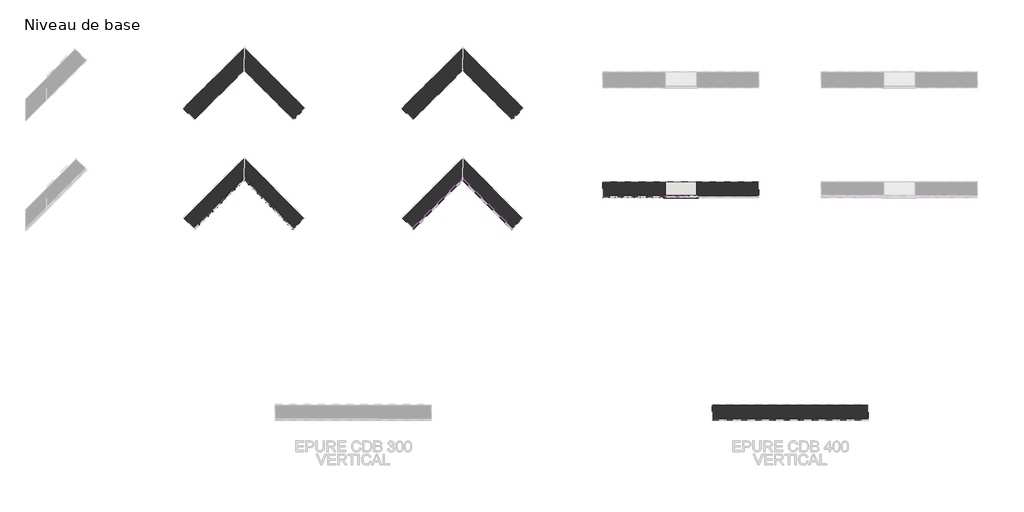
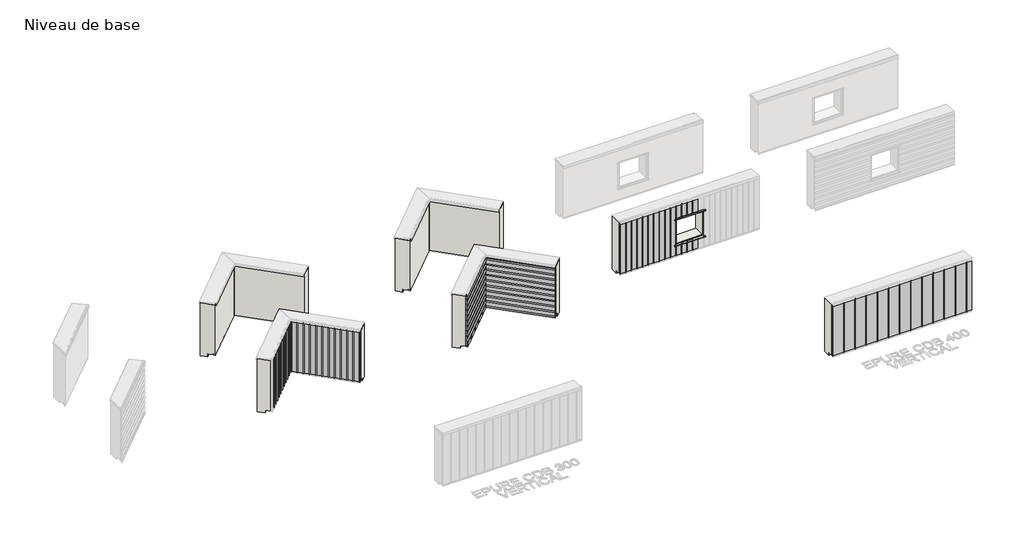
# One storey, part 3 of 13: 75 plates, 11 members, 10 walls.
"""IFC4 building model written with IfcOpenShell, lengths in millimetres."""

from ifc_helpers import new_model, si_unit, frame, origin, place, context, project, spatial, polyline, outline, extrude, faceted_brep, transform, mapped, element, save
from components import member_f168e29d, member_f8e8c80e, member_6ce742f2, plate_122a612d, plate_c0c583c8, plate_a9dbc21c, plate_c8fac7ec, plate_d3c6564b, plate_c4d21ec1, plate_62f67941, plate_085f16ba, plate_025053fb, plate_dfabe72b

model = new_model("IFC4")

# Units and contexts
model_context = context("Model", 3, world=origin())
ifc_project = project(units=[si_unit("LENGTHUNIT", "METRE", prefix="MILLI")], contexts=[model_context])

# Site, building, storey
site = spatial("IfcSite", under=ifc_project)
building = spatial("IfcBuilding", under=site)
storey = spatial("IfcBuildingStorey", under=building, Name="Niveau de base", Elevation=0.0)

# Members
placement = place(None, origin())
member_shape = member_f168e29d(model_context)
element("IfcMember", 1, ObjectType="Meneau d'angle en L : ATELIERS 3S_Angle rentrant", at=placement, inside=storey, context=model_context, shape_type="MappedRepresentation", body=[
    mapped(member_shape, transform((3557.0295763, 41631.1656168, 100.0), x_axis=(0.7071067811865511, 0.707106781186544, 0.0), y_axis=(0.707106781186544, -0.7071067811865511, 0.0), z_axis=(0.0, 0.0, -1.0))),
])
member_2_shape = member_f8e8c80e(model_context)
element("IfcMember", 2, ObjectType="Meneau d'angle en L : ATELIERS 3S_Angle rentrant", at=placement, inside=storey, context=model_context, shape_type="MappedRepresentation", body=[
    mapped(member_2_shape, transform((10557.0295763, 41631.1656168, 500.0), x_axis=(0.7071067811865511, 0.707106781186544, 0.0), y_axis=(0.707106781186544, -0.7071067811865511, 0.0), z_axis=(0.0, 0.0, -1.0))),
])
element("IfcMember", 3, ObjectType="Meneau d'angle en L : ATELIERS 3S_Angle rentrant", at=placement, inside=storey, context=model_context, shape_type="MappedRepresentation", body=[
    mapped(member_2_shape, transform((10557.0295763, 41631.1656168, 300.0), x_axis=(0.7071067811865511, 0.707106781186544, 0.0), y_axis=(0.707106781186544, -0.7071067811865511, 0.0), z_axis=(0.0, 0.0, -1.0))),
])
element("IfcMember", 4, ObjectType="Meneau d'angle en L : ATELIERS 3S_Angle rentrant", at=placement, inside=storey, context=model_context, shape_type="MappedRepresentation", body=[
    mapped(member_2_shape, transform((10557.0295763, 41631.1656168, 700.0), x_axis=(0.7071067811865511, 0.707106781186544, 0.0), y_axis=(0.707106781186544, -0.7071067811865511, 0.0), z_axis=(0.0, 0.0, -1.0))),
])
element("IfcMember", 5, ObjectType="Meneau d'angle en L : ATELIERS 3S_Angle rentrant", at=placement, inside=storey, context=model_context, shape_type="MappedRepresentation", body=[
    mapped(member_2_shape, transform((10557.0295763, 41631.1656168, 900.0), x_axis=(0.7071067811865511, 0.707106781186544, 0.0), y_axis=(0.707106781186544, -0.7071067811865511, 0.0), z_axis=(0.0, 0.0, -1.0))),
])
element("IfcMember", 6, ObjectType="Meneau d'angle en L : ATELIERS 3S_Angle rentrant", at=placement, inside=storey, context=model_context, shape_type="MappedRepresentation", body=[
    mapped(member_2_shape, transform((10557.0295763, 41631.1656168, 1100.0), x_axis=(0.7071067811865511, 0.707106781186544, 0.0), y_axis=(0.707106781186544, -0.7071067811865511, 0.0), z_axis=(0.0, 0.0, -1.0))),
])
element("IfcMember", 7, ObjectType="Meneau d'angle en L : ATELIERS 3S_Angle rentrant", at=placement, inside=storey, context=model_context, shape_type="MappedRepresentation", body=[
    mapped(member_2_shape, transform((10557.0295763, 41631.1656168, 1300.0), x_axis=(0.7071067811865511, 0.707106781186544, 0.0), y_axis=(0.707106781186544, -0.7071067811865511, 0.0), z_axis=(0.0, 0.0, -1.0))),
])
element("IfcMember", 8, ObjectType="Meneau d'angle en L : ATELIERS 3S_Angle rentrant", at=placement, inside=storey, context=model_context, shape_type="MappedRepresentation", body=[
    mapped(member_2_shape, transform((10557.0295763, 41631.1656168, 1500.0), x_axis=(0.7071067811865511, 0.707106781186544, 0.0), y_axis=(0.707106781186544, -0.7071067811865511, 0.0), z_axis=(0.0, 0.0, -1.0))),
])
element("IfcMember", 9, ObjectType="Meneau d'angle en L : ATELIERS 3S_Angle rentrant", at=placement, inside=storey, context=model_context, shape_type="MappedRepresentation", body=[
    mapped(member_2_shape, transform((10557.0295763, 41631.1656168, 1700.0), x_axis=(0.7071067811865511, 0.707106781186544, 0.0), y_axis=(0.707106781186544, -0.7071067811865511, 0.0), z_axis=(0.0, 0.0, -1.0))),
])
element("IfcMember", 10, ObjectType="Meneau d'angle en L : ATELIERS 3S_Angle rentrant", at=placement, inside=storey, context=model_context, shape_type="MappedRepresentation", body=[
    mapped(member_2_shape, transform((10557.0295763, 41631.1656168, 100.0), x_axis=(0.7071067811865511, 0.707106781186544, 0.0), y_axis=(0.707106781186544, -0.7071067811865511, 0.0), z_axis=(0.0, 0.0, -1.0))),
])
member_3_shape = member_6ce742f2(model_context)
element("IfcMember", 11, ObjectType="Meneau d'angle en L : ATELIERS 3S_Angle rentrant", at=placement, inside=storey, context=model_context, shape_type="MappedRepresentation", body=[
    mapped(member_3_shape, transform((10557.0295763, 41631.1656168, 1900.0), x_axis=(0.7071067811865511, 0.707106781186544, 0.0), y_axis=(0.707106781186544, -0.7071067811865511, 0.0), z_axis=(0.0, 0.0, -1.0))),
])

# Plates
plate_shape = plate_122a612d(model_context)
element("IfcPlate", 12, ObjectType="ATELIERS 3S_EPURE CDB 200_HORIZONTAL : AZURO", at=placement, inside=storey, context=model_context, shape_type="MappedRepresentation", body=[
    mapped(plate_shape, transform((9731.6591859, 40805.7952265, 100.0), x_axis=(0.7071067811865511, 0.707106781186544, 0.0), y_axis=(-0.707106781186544, 0.7071067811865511, 0.0), z_axis=(0.0, 0.0, 1.0))),
])
element("IfcPlate", 13, ObjectType="ATELIERS 3S_EPURE CDB 200_HORIZONTAL : AZURO", at=placement, inside=storey, context=model_context, shape_type="MappedRepresentation", body=[
    mapped(plate_shape, transform((11382.3999666, 40805.7952265, 100.0), x_axis=(0.7071067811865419, -0.7071067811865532, 0.0), y_axis=(0.7071067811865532, 0.7071067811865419, 0.0), z_axis=(0.0, 0.0, 1.0))),
])
element("IfcPlate", 14, ObjectType="ATELIERS 3S_EPURE CDB 200_HORIZONTAL : AZURO", at=placement, inside=storey, context=model_context, shape_type="MappedRepresentation", body=[
    mapped(plate_shape, transform((9731.6591859, 40805.7952265, 300.0), x_axis=(0.7071067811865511, 0.707106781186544, 0.0), y_axis=(-0.707106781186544, 0.7071067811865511, 0.0), z_axis=(0.0, 0.0, 1.0))),
])
element("IfcPlate", 15, ObjectType="ATELIERS 3S_EPURE CDB 200_HORIZONTAL : AZURO", at=placement, inside=storey, context=model_context, shape_type="MappedRepresentation", body=[
    mapped(plate_shape, transform((9731.6591859, 40805.7952265, 500.0), x_axis=(0.7071067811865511, 0.707106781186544, 0.0), y_axis=(-0.707106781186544, 0.7071067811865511, 0.0), z_axis=(0.0, 0.0, 1.0))),
])
element("IfcPlate", 16, ObjectType="ATELIERS 3S_EPURE CDB 200_HORIZONTAL : AZURO", at=placement, inside=storey, context=model_context, shape_type="MappedRepresentation", body=[
    mapped(plate_shape, transform((11382.3999666, 40805.7952265, 300.0), x_axis=(0.7071067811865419, -0.7071067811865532, 0.0), y_axis=(0.7071067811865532, 0.7071067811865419, 0.0), z_axis=(0.0, 0.0, 1.0))),
])
element("IfcPlate", 17, ObjectType="ATELIERS 3S_EPURE CDB 200_HORIZONTAL : AZURO", at=placement, inside=storey, context=model_context, shape_type="MappedRepresentation", body=[
    mapped(plate_shape, transform((11382.3999666, 40805.7952265, 500.0), x_axis=(0.7071067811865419, -0.7071067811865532, 0.0), y_axis=(0.7071067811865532, 0.7071067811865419, 0.0), z_axis=(0.0, 0.0, 1.0))),
])
element("IfcPlate", 18, ObjectType="ATELIERS 3S_EPURE CDB 200_HORIZONTAL : AZURO", at=placement, inside=storey, context=model_context, shape_type="MappedRepresentation", body=[
    mapped(plate_shape, transform((9731.6591859, 40805.7952265, 700.0), x_axis=(0.7071067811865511, 0.707106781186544, 0.0), y_axis=(-0.707106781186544, 0.7071067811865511, 0.0), z_axis=(0.0, 0.0, 1.0))),
])
element("IfcPlate", 19, ObjectType="ATELIERS 3S_EPURE CDB 200_HORIZONTAL : AZURO", at=placement, inside=storey, context=model_context, shape_type="MappedRepresentation", body=[
    mapped(plate_shape, transform((9731.6591859, 40805.7952265, 900.0), x_axis=(0.7071067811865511, 0.707106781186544, 0.0), y_axis=(-0.707106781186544, 0.7071067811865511, 0.0), z_axis=(0.0, 0.0, 1.0))),
])
element("IfcPlate", 20, ObjectType="ATELIERS 3S_EPURE CDB 200_HORIZONTAL : AZURO", at=placement, inside=storey, context=model_context, shape_type="MappedRepresentation", body=[
    mapped(plate_shape, transform((9731.6591859, 40805.7952265, 1100.0), x_axis=(0.7071067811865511, 0.707106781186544, 0.0), y_axis=(-0.707106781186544, 0.7071067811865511, 0.0), z_axis=(0.0, 0.0, 1.0))),
])
element("IfcPlate", 21, ObjectType="ATELIERS 3S_EPURE CDB 200_HORIZONTAL : AZURO", at=placement, inside=storey, context=model_context, shape_type="MappedRepresentation", body=[
    mapped(plate_shape, transform((9731.6591859, 40805.7952265, 1300.0), x_axis=(0.7071067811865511, 0.707106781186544, 0.0), y_axis=(-0.707106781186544, 0.7071067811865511, 0.0), z_axis=(0.0, 0.0, 1.0))),
])
element("IfcPlate", 22, ObjectType="ATELIERS 3S_EPURE CDB 200_HORIZONTAL : AZURO", at=placement, inside=storey, context=model_context, shape_type="MappedRepresentation", body=[
    mapped(plate_shape, transform((9731.6591859, 40805.7952265, 1500.0), x_axis=(0.7071067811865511, 0.707106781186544, 0.0), y_axis=(-0.707106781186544, 0.7071067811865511, 0.0), z_axis=(0.0, 0.0, 1.0))),
])
element("IfcPlate", 23, ObjectType="ATELIERS 3S_EPURE CDB 200_HORIZONTAL : AZURO", at=placement, inside=storey, context=model_context, shape_type="MappedRepresentation", body=[
    mapped(plate_shape, transform((9731.6591859, 40805.7952265, 1700.0), x_axis=(0.7071067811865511, 0.707106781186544, 0.0), y_axis=(-0.707106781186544, 0.7071067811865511, 0.0), z_axis=(0.0, 0.0, 1.0))),
])
element("IfcPlate", 24, ObjectType="ATELIERS 3S_EPURE CDB 200_HORIZONTAL : AZURO", at=placement, inside=storey, context=model_context, shape_type="MappedRepresentation", body=[
    mapped(plate_shape, transform((11382.3999666, 40805.7952265, 700.0), x_axis=(0.7071067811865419, -0.7071067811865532, 0.0), y_axis=(0.7071067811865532, 0.7071067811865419, 0.0), z_axis=(0.0, 0.0, 1.0))),
])
element("IfcPlate", 25, ObjectType="ATELIERS 3S_EPURE CDB 200_HORIZONTAL : AZURO", at=placement, inside=storey, context=model_context, shape_type="MappedRepresentation", body=[
    mapped(plate_shape, transform((11382.3999666, 40805.7952265, 900.0), x_axis=(0.7071067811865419, -0.7071067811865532, 0.0), y_axis=(0.7071067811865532, 0.7071067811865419, 0.0), z_axis=(0.0, 0.0, 1.0))),
])
element("IfcPlate", 26, ObjectType="ATELIERS 3S_EPURE CDB 200_HORIZONTAL : AZURO", at=placement, inside=storey, context=model_context, shape_type="MappedRepresentation", body=[
    mapped(plate_shape, transform((11382.3999666, 40805.7952265, 1100.0), x_axis=(0.7071067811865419, -0.7071067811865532, 0.0), y_axis=(0.7071067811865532, 0.7071067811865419, 0.0), z_axis=(0.0, 0.0, 1.0))),
])
element("IfcPlate", 27, ObjectType="ATELIERS 3S_EPURE CDB 200_HORIZONTAL : AZURO", at=placement, inside=storey, context=model_context, shape_type="MappedRepresentation", body=[
    mapped(plate_shape, transform((11382.3999666, 40805.7952265, 1300.0), x_axis=(0.7071067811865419, -0.7071067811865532, 0.0), y_axis=(0.7071067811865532, 0.7071067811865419, 0.0), z_axis=(0.0, 0.0, 1.0))),
])
element("IfcPlate", 28, ObjectType="ATELIERS 3S_EPURE CDB 200_HORIZONTAL : AZURO", at=placement, inside=storey, context=model_context, shape_type="MappedRepresentation", body=[
    mapped(plate_shape, transform((11382.3999666, 40805.7952265, 1500.0), x_axis=(0.7071067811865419, -0.7071067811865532, 0.0), y_axis=(0.7071067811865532, 0.7071067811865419, 0.0), z_axis=(0.0, 0.0, 1.0))),
])
element("IfcPlate", 29, ObjectType="ATELIERS 3S_EPURE CDB 200_HORIZONTAL : AZURO", at=placement, inside=storey, context=model_context, shape_type="MappedRepresentation", body=[
    mapped(plate_shape, transform((11382.3999666, 40805.7952265, 1700.0), x_axis=(0.7071067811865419, -0.7071067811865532, 0.0), y_axis=(0.7071067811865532, 0.7071067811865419, 0.0), z_axis=(0.0, 0.0, 1.0))),
])
plate_2_shape = plate_c0c583c8(model_context)
element("IfcPlate", 30, ObjectType="ATELIERS 3S_EPURE CDB 200_HORIZONTAL : AZURO", at=placement, inside=storey, context=model_context, shape_type="MappedRepresentation", body=[
    mapped(plate_2_shape, transform((9731.6591859, 40805.7952265, 1900.0), x_axis=(0.7071067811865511, 0.707106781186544, 0.0), y_axis=(-0.707106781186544, 0.7071067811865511, 0.0), z_axis=(0.0, 0.0, 1.0))),
])
element("IfcPlate", 31, ObjectType="ATELIERS 3S_EPURE CDB 200_HORIZONTAL : AZURO", at=placement, inside=storey, context=model_context, shape_type="MappedRepresentation", body=[
    mapped(plate_2_shape, transform((11382.3999666, 40805.7952265, 1900.0), x_axis=(0.7071067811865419, -0.7071067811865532, 0.0), y_axis=(0.7071067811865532, 0.7071067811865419, 0.0), z_axis=(0.0, 0.0, 1.0))),
])
plate_3_shape = plate_a9dbc21c(model_context)
element("IfcPlate", 32, ObjectType="ATELIERS 3S_EPURE CDB 200_VERTICAL : AZURO", at=placement, inside=storey, context=model_context, shape_type="MappedRepresentation", body=[
    mapped(plate_3_shape, transform((3663.449147, 41524.7460462, 100.0), x_axis=(0.7071067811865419, -0.7071067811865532, 0.0), y_axis=(0.7071067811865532, 0.7071067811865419, 0.0), z_axis=(0.0, 0.0, 1.0))),
])
element("IfcPlate", 33, ObjectType="ATELIERS 3S_EPURE CDB 200_VERTICAL : AZURO", at=placement, inside=storey, context=model_context, shape_type="MappedRepresentation", body=[
    mapped(plate_3_shape, transform((2154.1297226, 40228.2657632, 100.0), x_axis=(0.7071067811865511, 0.707106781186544, 0.0), y_axis=(-0.707106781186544, 0.7071067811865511, 0.0), z_axis=(0.0, 0.0, 1.0))),
])
element("IfcPlate", 34, ObjectType="ATELIERS 3S_EPURE CDB 200_VERTICAL : AZURO", at=placement, inside=storey, context=model_context, shape_type="MappedRepresentation", body=[
    mapped(plate_3_shape, transform((2295.5510789, 40369.6871194, 100.0), x_axis=(0.7071067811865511, 0.707106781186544, 0.0), y_axis=(-0.707106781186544, 0.7071067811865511, 0.0), z_axis=(0.0, 0.0, 1.0))),
])
element("IfcPlate", 35, ObjectType="ATELIERS 3S_EPURE CDB 200_VERTICAL : AZURO", at=placement, inside=storey, context=model_context, shape_type="MappedRepresentation", body=[
    mapped(plate_3_shape, transform((2436.9724351, 40511.1084756, 100.0), x_axis=(0.7071067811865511, 0.707106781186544, 0.0), y_axis=(-0.707106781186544, 0.7071067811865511, 0.0), z_axis=(0.0, 0.0, 1.0))),
])
element("IfcPlate", 36, ObjectType="ATELIERS 3S_EPURE CDB 200_VERTICAL : AZURO", at=placement, inside=storey, context=model_context, shape_type="MappedRepresentation", body=[
    mapped(plate_3_shape, transform((2578.3937913, 40652.5298319, 100.0), x_axis=(0.7071067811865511, 0.707106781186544, 0.0), y_axis=(-0.707106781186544, 0.7071067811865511, 0.0), z_axis=(0.0, 0.0, 1.0))),
])
element("IfcPlate", 37, ObjectType="ATELIERS 3S_EPURE CDB 200_VERTICAL : AZURO", at=placement, inside=storey, context=model_context, shape_type="MappedRepresentation", body=[
    mapped(plate_3_shape, transform((2719.8151476, 40793.9511881, 100.0), x_axis=(0.7071067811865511, 0.707106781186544, 0.0), y_axis=(-0.707106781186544, 0.7071067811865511, 0.0), z_axis=(0.0, 0.0, 1.0))),
])
element("IfcPlate", 38, ObjectType="ATELIERS 3S_EPURE CDB 200_VERTICAL : AZURO", at=placement, inside=storey, context=model_context, shape_type="MappedRepresentation", body=[
    mapped(plate_3_shape, transform((2861.2365038, 40935.3725444, 100.0), x_axis=(0.7071067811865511, 0.707106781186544, 0.0), y_axis=(-0.707106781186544, 0.7071067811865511, 0.0), z_axis=(0.0, 0.0, 1.0))),
])
element("IfcPlate", 39, ObjectType="ATELIERS 3S_EPURE CDB 200_VERTICAL : AZURO", at=placement, inside=storey, context=model_context, shape_type="MappedRepresentation", body=[
    mapped(plate_3_shape, transform((3002.65786, 41076.7939006, 100.0), x_axis=(0.7071067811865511, 0.707106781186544, 0.0), y_axis=(-0.707106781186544, 0.7071067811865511, 0.0), z_axis=(0.0, 0.0, 1.0))),
])
element("IfcPlate", 40, ObjectType="ATELIERS 3S_EPURE CDB 200_VERTICAL : AZURO", at=placement, inside=storey, context=model_context, shape_type="MappedRepresentation", body=[
    mapped(plate_3_shape, transform((3144.0792163, 41218.2152568, 100.0), x_axis=(0.7071067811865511, 0.707106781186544, 0.0), y_axis=(-0.707106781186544, 0.7071067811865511, 0.0), z_axis=(0.0, 0.0, 1.0))),
])
element("IfcPlate", 41, ObjectType="ATELIERS 3S_EPURE CDB 200_VERTICAL : AZURO", at=placement, inside=storey, context=model_context, shape_type="MappedRepresentation", body=[
    mapped(plate_3_shape, transform((3285.5005725, 41359.6366131, 100.0), x_axis=(0.7071067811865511, 0.707106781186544, 0.0), y_axis=(-0.707106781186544, 0.7071067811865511, 0.0), z_axis=(0.0, 0.0, 1.0))),
])
element("IfcPlate", 42, ObjectType="ATELIERS 3S_EPURE CDB 200_VERTICAL : AZURO", at=placement, inside=storey, context=model_context, shape_type="MappedRepresentation", body=[
    mapped(plate_3_shape, transform((3426.9219288, 41501.0579693, 100.0), x_axis=(0.7071067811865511, 0.707106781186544, 0.0), y_axis=(-0.707106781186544, 0.7071067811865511, 0.0), z_axis=(0.0, 0.0, 1.0))),
])
element("IfcPlate", 43, ObjectType="ATELIERS 3S_EPURE CDB 200_VERTICAL : AZURO", at=placement, inside=storey, context=model_context, shape_type="MappedRepresentation", body=[
    mapped(plate_3_shape, transform((3804.8705033, 41383.3246898, 100.0), x_axis=(0.7071067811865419, -0.7071067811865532, 0.0), y_axis=(0.7071067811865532, 0.7071067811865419, 0.0), z_axis=(0.0, 0.0, 1.0))),
])
element("IfcPlate", 44, ObjectType="ATELIERS 3S_EPURE CDB 200_VERTICAL : AZURO", at=placement, inside=storey, context=model_context, shape_type="MappedRepresentation", body=[
    mapped(plate_3_shape, transform((3946.2918595, 41241.9033336, 100.0), x_axis=(0.7071067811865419, -0.7071067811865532, 0.0), y_axis=(0.7071067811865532, 0.7071067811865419, 0.0), z_axis=(0.0, 0.0, 1.0))),
])
element("IfcPlate", 45, ObjectType="ATELIERS 3S_EPURE CDB 200_VERTICAL : AZURO", at=placement, inside=storey, context=model_context, shape_type="MappedRepresentation", body=[
    mapped(plate_3_shape, transform((4087.7132158, 41100.4819773, 100.0), x_axis=(0.7071067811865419, -0.7071067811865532, 0.0), y_axis=(0.7071067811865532, 0.7071067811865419, 0.0), z_axis=(0.0, 0.0, 1.0))),
])
element("IfcPlate", 46, ObjectType="ATELIERS 3S_EPURE CDB 200_VERTICAL : AZURO", at=placement, inside=storey, context=model_context, shape_type="MappedRepresentation", body=[
    mapped(plate_3_shape, transform((4229.134572, 40959.0606211, 100.0), x_axis=(0.7071067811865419, -0.7071067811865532, 0.0), y_axis=(0.7071067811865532, 0.7071067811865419, 0.0), z_axis=(0.0, 0.0, 1.0))),
])
element("IfcPlate", 47, ObjectType="ATELIERS 3S_EPURE CDB 200_VERTICAL : AZURO", at=placement, inside=storey, context=model_context, shape_type="MappedRepresentation", body=[
    mapped(plate_3_shape, transform((4370.5559283, 40817.6392649, 100.0), x_axis=(0.7071067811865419, -0.7071067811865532, 0.0), y_axis=(0.7071067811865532, 0.7071067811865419, 0.0), z_axis=(0.0, 0.0, 1.0))),
])
element("IfcPlate", 48, ObjectType="ATELIERS 3S_EPURE CDB 200_VERTICAL : AZURO", at=placement, inside=storey, context=model_context, shape_type="MappedRepresentation", body=[
    mapped(plate_3_shape, transform((4511.9772845, 40676.2179086, 100.0), x_axis=(0.7071067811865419, -0.7071067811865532, 0.0), y_axis=(0.7071067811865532, 0.7071067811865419, 0.0), z_axis=(0.0, 0.0, 1.0))),
])
element("IfcPlate", 49, ObjectType="ATELIERS 3S_EPURE CDB 200_VERTICAL : AZURO", at=placement, inside=storey, context=model_context, shape_type="MappedRepresentation", body=[
    mapped(plate_3_shape, transform((4653.3986407, 40534.7965524, 100.0), x_axis=(0.7071067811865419, -0.7071067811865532, 0.0), y_axis=(0.7071067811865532, 0.7071067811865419, 0.0), z_axis=(0.0, 0.0, 1.0))),
])
element("IfcPlate", 50, ObjectType="ATELIERS 3S_EPURE CDB 200_VERTICAL : AZURO", at=placement, inside=storey, context=model_context, shape_type="MappedRepresentation", body=[
    mapped(plate_3_shape, transform((4794.819997, 40393.3751962, 100.0), x_axis=(0.7071067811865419, -0.7071067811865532, 0.0), y_axis=(0.7071067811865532, 0.7071067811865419, 0.0), z_axis=(0.0, 0.0, 1.0))),
])
element("IfcPlate", 51, ObjectType="ATELIERS 3S_EPURE CDB 200_VERTICAL : AZURO", at=placement, inside=storey, context=model_context, shape_type="MappedRepresentation", body=[
    mapped(plate_3_shape, transform((4936.2413532, 40251.9538399, 100.0), x_axis=(0.7071067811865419, -0.7071067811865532, 0.0), y_axis=(0.7071067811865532, 0.7071067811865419, 0.0), z_axis=(0.0, 0.0, 1.0))),
])
element("IfcPlate", 52, ObjectType="ATELIERS 3S_EPURE CDB 200_VERTICAL : AZURO", at=placement, inside=storey, context=model_context, shape_type="MappedRepresentation", body=[
    mapped(plate_3_shape, transform((5077.6627094, 40110.5324837, 100.0), x_axis=(0.7071067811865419, -0.7071067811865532, 0.0), y_axis=(0.7071067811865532, 0.7071067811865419, 0.0), z_axis=(0.0, 0.0, 1.0))),
])
plate_4_shape = plate_c8fac7ec(model_context)
element("IfcPlate", 53, ObjectType="ATELIERS 3S_EPURE CDB 200_VERTICAL : AZURO", at=placement, inside=storey, context=model_context, shape_type="MappedRepresentation", body=[
    mapped(plate_4_shape, transform((17157.0295766, 41054.9785953, 100.0), x_axis=(1.0, 0.0, 0.0), y_axis=(0.0, 1.0, 0.0), z_axis=(0.0, 0.0, 1.0))),
])
element("IfcPlate", 54, ObjectType="ATELIERS 3S_EPURE CDB 200_VERTICAL : AZURO", at=placement, inside=storey, context=model_context, shape_type="MappedRepresentation", body=[
    mapped(plate_4_shape, transform((17357.0295766, 41054.9785953, 100.0), x_axis=(1.0, 0.0, 0.0), y_axis=(0.0, 1.0, 0.0), z_axis=(0.0, 0.0, 1.0))),
])
element("IfcPlate", 55, ObjectType="ATELIERS 3S_EPURE CDB 200_VERTICAL : AZURO", at=placement, inside=storey, context=model_context, shape_type="MappedRepresentation", body=[
    mapped(plate_4_shape, transform((17557.0295766, 41054.9785953, 100.0), x_axis=(1.0, 0.0, 0.0), y_axis=(0.0, 1.0, 0.0), z_axis=(0.0, 0.0, 1.0))),
])
element("IfcPlate", 56, ObjectType="ATELIERS 3S_EPURE CDB 200_VERTICAL : AZURO", at=placement, inside=storey, context=model_context, shape_type="MappedRepresentation", body=[
    mapped(plate_4_shape, transform((17757.0295766, 41054.9785953, 100.0), x_axis=(1.0, 0.0, 0.0), y_axis=(0.0, 1.0, 0.0), z_axis=(0.0, 0.0, 1.0))),
])
plate_5_shape = plate_d3c6564b(model_context)
element("IfcPlate", 57, ObjectType="ATELIERS 3S_EPURE CDB 200_VERTICAL : AZURO", at=placement, inside=storey, context=model_context, shape_type="MappedRepresentation", body=[
    mapped(plate_5_shape, transform((17157.0295766, 41054.9785953, 1500.0), x_axis=(1.0, 0.0, 0.0), y_axis=(0.0, 1.0, 0.0), z_axis=(0.0, 0.0, 1.0))),
])
element("IfcPlate", 58, ObjectType="ATELIERS 3S_EPURE CDB 200_VERTICAL : AZURO", at=placement, inside=storey, context=model_context, shape_type="MappedRepresentation", body=[
    mapped(plate_5_shape, transform((17357.0295766, 41054.9785953, 1500.0), x_axis=(1.0, 0.0, 0.0), y_axis=(0.0, 1.0, 0.0), z_axis=(0.0, 0.0, 1.0))),
])
element("IfcPlate", 59, ObjectType="ATELIERS 3S_EPURE CDB 200_VERTICAL : AZURO", at=placement, inside=storey, context=model_context, shape_type="MappedRepresentation", body=[
    mapped(plate_5_shape, transform((17557.0295766, 41054.9785953, 1500.0), x_axis=(1.0, 0.0, 0.0), y_axis=(0.0, 1.0, 0.0), z_axis=(0.0, 0.0, 1.0))),
])
element("IfcPlate", 60, ObjectType="ATELIERS 3S_EPURE CDB 200_VERTICAL : AZURO", at=placement, inside=storey, context=model_context, shape_type="MappedRepresentation", body=[
    mapped(plate_5_shape, transform((17757.0295766, 41054.9785953, 1500.0), x_axis=(1.0, 0.0, 0.0), y_axis=(0.0, 1.0, 0.0), z_axis=(0.0, 0.0, 1.0))),
])
plate_6_shape = plate_c4d21ec1(model_context)
element("IfcPlate", 61, ObjectType="ATELIERS 3S_EPURE CDB 200_VERTICAL : AZURO", at=placement, inside=storey, context=model_context, shape_type="MappedRepresentation", body=[
    mapped(plate_6_shape, transform((3509.4766454, 41583.6126859, 100.0), x_axis=(0.7071067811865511, 0.707106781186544, 0.0), y_axis=(-0.707106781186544, 0.7071067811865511, 0.0), z_axis=(0.0, 0.0, 1.0))),
])
element("IfcPlate", 62, ObjectType="ATELIERS 3S_EPURE CDB 200_VERTICAL : AZURO", at=placement, inside=storey, context=model_context, shape_type="MappedRepresentation", body=[
    mapped(plate_6_shape, transform((5160.217426, 40027.9777671, 100.0), x_axis=(0.7071067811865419, -0.7071067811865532, 0.0), y_axis=(0.7071067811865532, 0.7071067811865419, 0.0), z_axis=(0.0, 0.0, 1.0))),
])
plate_7_shape = plate_62f67941(model_context)
element("IfcPlate", 63, ObjectType="ATELIERS 3S_EPURE CDB 400_VERTICAL : AZURO", at=placement, inside=storey, context=model_context, shape_type="MappedRepresentation", body=[
    mapped(plate_7_shape, transform((18757.0295764, 33905.7785953, 100.0), x_axis=(1.0, 0.0, 0.0), y_axis=(0.0, 1.0, 0.0), z_axis=(0.0, 0.0, 1.0))),
])
element("IfcPlate", 64, ObjectType="ATELIERS 3S_EPURE CDB 400_VERTICAL : AZURO", at=placement, inside=storey, context=model_context, shape_type="MappedRepresentation", body=[
    mapped(plate_7_shape, transform((21557.0295766, 33905.7785953, 100.0), x_axis=(1.0, 0.0, 0.0), y_axis=(0.0, 1.0, 0.0), z_axis=(0.0, 0.0, 1.0))),
])
element("IfcPlate", 65, ObjectType="ATELIERS 3S_EPURE CDB 400_VERTICAL : AZURO", at=placement, inside=storey, context=model_context, shape_type="MappedRepresentation", body=[
    mapped(plate_7_shape, transform((21957.0295766, 33905.7785953, 100.0), x_axis=(1.0, 0.0, 0.0), y_axis=(0.0, 1.0, 0.0), z_axis=(0.0, 0.0, 1.0))),
])
element("IfcPlate", 66, ObjectType="ATELIERS 3S_EPURE CDB 400_VERTICAL : AZURO", at=placement, inside=storey, context=model_context, shape_type="MappedRepresentation", body=[
    mapped(plate_7_shape, transform((22357.0295766, 33905.7785953, 100.0), x_axis=(1.0, 0.0, 0.0), y_axis=(0.0, 1.0, 0.0), z_axis=(0.0, 0.0, 1.0))),
])
element("IfcPlate", 67, ObjectType="ATELIERS 3S_EPURE CDB 400_VERTICAL : AZURO", at=placement, inside=storey, context=model_context, shape_type="MappedRepresentation", body=[
    mapped(plate_7_shape, transform((22757.0295766, 33905.7785953, 100.0), x_axis=(1.0, 0.0, 0.0), y_axis=(0.0, 1.0, 0.0), z_axis=(0.0, 0.0, 1.0))),
])
element("IfcPlate", 68, ObjectType="ATELIERS 3S_EPURE CDB 400_VERTICAL : AZURO", at=placement, inside=storey, context=model_context, shape_type="MappedRepresentation", body=[
    mapped(plate_7_shape, transform((23157.0295766, 33905.7785953, 100.0), x_axis=(1.0, 0.0, 0.0), y_axis=(0.0, 1.0, 0.0), z_axis=(0.0, 0.0, 1.0))),
])
element("IfcPlate", 69, ObjectType="ATELIERS 3S_EPURE CDB 400_VERTICAL : AZURO", at=placement, inside=storey, context=model_context, shape_type="MappedRepresentation", body=[
    mapped(plate_7_shape, transform((21157.0295766, 33905.7785953, 100.0), x_axis=(1.0, 0.0, 0.0), y_axis=(0.0, 1.0, 0.0), z_axis=(0.0, 0.0, 1.0))),
])
element("IfcPlate", 70, ObjectType="ATELIERS 3S_EPURE CDB 400_VERTICAL : AZURO", at=placement, inside=storey, context=model_context, shape_type="MappedRepresentation", body=[
    mapped(plate_7_shape, transform((20757.0295766, 33905.7785953, 100.0), x_axis=(1.0, 0.0, 0.0), y_axis=(0.0, 1.0, 0.0), z_axis=(0.0, 0.0, 1.0))),
])
element("IfcPlate", 71, ObjectType="ATELIERS 3S_EPURE CDB 400_VERTICAL : AZURO", at=placement, inside=storey, context=model_context, shape_type="MappedRepresentation", body=[
    mapped(plate_7_shape, transform((20357.0295766, 33905.7785953, 100.0), x_axis=(1.0, 0.0, 0.0), y_axis=(0.0, 1.0, 0.0), z_axis=(0.0, 0.0, 1.0))),
])
element("IfcPlate", 72, ObjectType="ATELIERS 3S_EPURE CDB 400_VERTICAL : AZURO", at=placement, inside=storey, context=model_context, shape_type="MappedRepresentation", body=[
    mapped(plate_7_shape, transform((19957.0295766, 33905.7785953, 100.0), x_axis=(1.0, 0.0, 0.0), y_axis=(0.0, 1.0, 0.0), z_axis=(0.0, 0.0, 1.0))),
])
element("IfcPlate", 73, ObjectType="ATELIERS 3S_EPURE CDB 400_VERTICAL : AZURO", at=placement, inside=storey, context=model_context, shape_type="MappedRepresentation", body=[
    mapped(plate_7_shape, transform((19557.0295766, 33905.7785953, 100.0), x_axis=(1.0, 0.0, 0.0), y_axis=(0.0, 1.0, 0.0), z_axis=(0.0, 0.0, 1.0))),
])
element("IfcPlate", 74, ObjectType="ATELIERS 3S_EPURE CDB 400_VERTICAL : AZURO", at=placement, inside=storey, context=model_context, shape_type="MappedRepresentation", body=[
    mapped(plate_7_shape, transform((19157.0295766, 33905.7785953, 100.0), x_axis=(1.0, 0.0, 0.0), y_axis=(0.0, 1.0, 0.0), z_axis=(0.0, 0.0, 1.0))),
])
plate_8_shape = plate_085f16ba(model_context)
element("IfcPlate", 75, ObjectType="ATELIERS 3S_EPURE CDB 400_VERTICAL : AZURO", at=placement, inside=storey, context=model_context, shape_type="MappedRepresentation", body=[
    mapped(plate_8_shape, transform((23457.0295764, 33905.7785953, 100.0), x_axis=(1.0, 0.0, 0.0), y_axis=(0.0, 1.0, 0.0), z_axis=(0.0, 0.0, 1.0))),
])
plate_9_shape = plate_025053fb(model_context)
element("IfcPlate", 76, ObjectType="ATELIERS 3S_EPURE CDB 200_VERTICAL : AZURO", at=placement, inside=storey, context=model_context, shape_type="MappedRepresentation", body=[
    mapped(plate_9_shape, transform((15157.0295764, 41054.9785953, 100.0), x_axis=(1.0, 0.0, 0.0), y_axis=(0.0, 1.0, 0.0), z_axis=(0.0, 0.0, 1.0))),
])
element("IfcPlate", 77, ObjectType="ATELIERS 3S_EPURE CDB 200_VERTICAL : AZURO", at=placement, inside=storey, context=model_context, shape_type="MappedRepresentation", body=[
    mapped(plate_9_shape, transform((15357.0295766, 41054.9785953, 100.0), x_axis=(1.0, 0.0, 0.0), y_axis=(0.0, 1.0, 0.0), z_axis=(0.0, 0.0, 1.0))),
])
element("IfcPlate", 78, ObjectType="ATELIERS 3S_EPURE CDB 200_VERTICAL : AZURO", at=placement, inside=storey, context=model_context, shape_type="MappedRepresentation", body=[
    mapped(plate_9_shape, transform((15557.0295766, 41054.9785953, 100.0), x_axis=(1.0, 0.0, 0.0), y_axis=(0.0, 1.0, 0.0), z_axis=(0.0, 0.0, 1.0))),
])
element("IfcPlate", 79, ObjectType="ATELIERS 3S_EPURE CDB 200_VERTICAL : AZURO", at=placement, inside=storey, context=model_context, shape_type="MappedRepresentation", body=[
    mapped(plate_9_shape, transform((15757.0295766, 41054.9785953, 100.0), x_axis=(1.0, 0.0, 0.0), y_axis=(0.0, 1.0, 0.0), z_axis=(0.0, 0.0, 1.0))),
])
element("IfcPlate", 80, ObjectType="ATELIERS 3S_EPURE CDB 200_VERTICAL : AZURO", at=placement, inside=storey, context=model_context, shape_type="MappedRepresentation", body=[
    mapped(plate_9_shape, transform((15957.0295766, 41054.9785953, 100.0), x_axis=(1.0, 0.0, 0.0), y_axis=(0.0, 1.0, 0.0), z_axis=(0.0, 0.0, 1.0))),
])
element("IfcPlate", 81, ObjectType="ATELIERS 3S_EPURE CDB 200_VERTICAL : AZURO", at=placement, inside=storey, context=model_context, shape_type="MappedRepresentation", body=[
    mapped(plate_9_shape, transform((16157.0295766, 41054.9785953, 100.0), x_axis=(1.0, 0.0, 0.0), y_axis=(0.0, 1.0, 0.0), z_axis=(0.0, 0.0, 1.0))),
])
element("IfcPlate", 82, ObjectType="ATELIERS 3S_EPURE CDB 200_VERTICAL : AZURO", at=placement, inside=storey, context=model_context, shape_type="MappedRepresentation", body=[
    mapped(plate_9_shape, transform((16357.0295766, 41054.9785953, 100.0), x_axis=(1.0, 0.0, 0.0), y_axis=(0.0, 1.0, 0.0), z_axis=(0.0, 0.0, 1.0))),
])
element("IfcPlate", 83, ObjectType="ATELIERS 3S_EPURE CDB 200_VERTICAL : AZURO", at=placement, inside=storey, context=model_context, shape_type="MappedRepresentation", body=[
    mapped(plate_9_shape, transform((16557.0295766, 41054.9785953, 100.0), x_axis=(1.0, 0.0, 0.0), y_axis=(0.0, 1.0, 0.0), z_axis=(0.0, 0.0, 1.0))),
])
element("IfcPlate", 84, ObjectType="ATELIERS 3S_EPURE CDB 200_VERTICAL : AZURO", at=placement, inside=storey, context=model_context, shape_type="MappedRepresentation", body=[
    mapped(plate_9_shape, transform((16757.0295766, 41054.9785953, 100.0), x_axis=(1.0, 0.0, 0.0), y_axis=(0.0, 1.0, 0.0), z_axis=(0.0, 0.0, 1.0))),
])
element("IfcPlate", 85, ObjectType="ATELIERS 3S_EPURE CDB 200_VERTICAL : AZURO", at=placement, inside=storey, context=model_context, shape_type="MappedRepresentation", body=[
    mapped(plate_9_shape, transform((16957.0295766, 41054.9785953, 100.0), x_axis=(1.0, 0.0, 0.0), y_axis=(0.0, 1.0, 0.0), z_axis=(0.0, 0.0, 1.0))),
])
plate_10_shape = plate_dfabe72b(model_context)
element("IfcPlate", 86, ObjectType="ATELIERS 3S_EPURE CDB_Entourage de baie : ATELIERS 3S_EPURE CDB_Entourage de baie", at=placement, inside=storey, context=model_context, shape_type="MappedRepresentation", body=[
    mapped(plate_10_shape, transform((17557.0295766, 41054.9785953, 500.0), x_axis=(1.0, 0.0, 0.0), y_axis=(0.0, 1.0, 0.0), z_axis=(0.0, 0.0, 1.0))),
])

# Walls
element("IfcWall", 87, ObjectType="ATELIERS 3S_Mur de base_LoD 300", at=placement, inside=storey, context=model_context, shape_type="Brep", body=[
    faceted_brep([(3557.0295763, 41631.1656168, 2000.0), (1941.9976881, 40016.1337286, 2000.0), (1941.9976881, 40016.1337286, 130.0), (3557.0295763, 41631.1656168, 130.0), (3557.0295763, 42242.1058758, 0.0), (1636.5275586, 40321.6038581, 0.0), (1636.5275586, 40321.6038581, 2000.0), (3557.0295763, 42242.1058758, 2000.0), (1813.3042539, 40144.8271628, 0.0), (1813.3042539, 40144.8271628, 100.0), (1941.2905813, 40016.8408354, 100.0), (1941.2905813, 40016.8408354, 130.0), (3557.0295763, 41632.5798304, 130.0), (3557.0295763, 41632.5798304, 100.0), (3557.0295763, 41888.5524852, 100.0), (3557.0295763, 41888.5524852, 0.0)], [[[0, 1, 2, 3]], [[4, 5, 6, 7]], [[1, 0, 7, 6]], [[6, 5, 8, 9, 10, 11, 2, 1]], [[4, 7, 0, 3, 12, 13, 14, 15]], [[5, 4, 15, 8]], [[9, 8, 15, 14]], [[9, 14, 13, 10]], [[11, 12, 3, 2]], [[12, 11, 10, 13]]]),
])
element("IfcWall", 88, ObjectType="ATELIERS 3S_Mur de base_LoD 300", at=placement, inside=storey, context=model_context, shape_type="Brep", body=[
    faceted_brep([(5172.0614645, 40016.1337286, 2000.0), (3557.0295763, 41631.1656168, 2000.0), (3557.0295763, 41631.1656168, 130.0), (5172.0614645, 40016.1337286, 130.0), (5477.531594, 40321.6038581, 0.0), (3557.0295763, 42242.1058758, 0.0), (3557.0295763, 42242.1058758, 2000.0), (5477.531594, 40321.6038581, 2000.0), (5172.7685713, 40016.8408354, 130.0), (5172.7685713, 40016.8408354, 100.0), (5300.7548987, 40144.8271628, 100.0), (5300.7548987, 40144.8271628, 0.0), (3557.0295763, 41888.5524852, 0.0), (3557.0295763, 41888.5524852, 100.0), (3557.0295763, 41632.5798304, 100.0), (3557.0295763, 41632.5798304, 130.0)], [[[0, 1, 2, 3]], [[4, 5, 6, 7]], [[4, 7, 0, 3, 8, 9, 10, 11]], [[1, 0, 7, 6]], [[1, 6, 5, 12, 13, 14, 15, 2]], [[5, 4, 11, 12]], [[13, 12, 11, 10]], [[13, 10, 9, 14]], [[15, 8, 3, 2]], [[8, 15, 14, 9]]]),
])
element("IfcWall", 89, ObjectType="ATELIERS 3S_EPURE CDB 200 VERTICAL_AZURO_LoD 100", at=placement, inside=storey, context=model_context, shape_type="Brep", body=[
    faceted_brep([(3557.0295763, 45090.5069769, 2000.0), (1962.327008, 43495.8044086, 2000.0), (1962.327008, 43495.8044086, 100.0), (3557.0295763, 45090.5069769, 100.0), (3557.0295763, 45782.7645157, 0.0), (1616.1982386, 43841.933178, 0.0), (1616.1982386, 43841.933178, 2000.0), (3557.0295763, 45782.7645157, 2000.0), (3557.0295763, 45119.4983549, 2000.0), (1947.831319, 43510.3000977, 2000.0), (1792.9749339, 43665.1564827, 0.0), (1792.9749339, 43665.1564827, 100.0), (1920.9612613, 43537.1701553, 100.0), (1920.9612613, 43537.1701553, 130.0), (1921.6683681, 43536.4630486, 130.0), (1921.6683681, 43536.4630486, 100.0), (3557.0295763, 45171.8242568, 100.0), (3557.0295763, 45171.8242568, 130.0), (3557.0295763, 45173.2384703, 130.0), (3557.0295763, 45173.2384703, 100.0), (3557.0295763, 45429.2111251, 100.0), (3557.0295763, 45429.2111251, 0.0)], [[[0, 1, 2, 3]], [[4, 5, 6, 7]], [[1, 0, 8, 7, 6, 9]], [[2, 1, 9, 6, 5, 10, 11, 12, 13, 14, 15]], [[0, 3, 16, 17, 18, 19, 20, 21, 4, 7, 8]], [[5, 4, 21, 10]], [[11, 10, 21, 20]], [[3, 2, 15, 16]], [[11, 20, 19, 12]], [[17, 14, 13, 18]], [[18, 13, 12, 19]], [[14, 17, 16, 15]]]),
])
element("IfcWall", 90, ObjectType="ATELIERS 3S_EPURE CDB 200 VERTICAL_AZURO_LoD 100", at=placement, inside=storey, context=model_context, shape_type="Brep", body=[
    faceted_brep([(5151.7321446, 43495.8044086, 100.0), (5151.7321446, 43495.8044086, 2000.0), (3557.0295763, 45090.5069769, 2000.0), (3557.0295763, 45090.5069769, 100.0), (5497.8609139, 43841.933178, 0.0), (3557.0295763, 45782.7645157, 0.0), (3557.0295763, 45782.7645157, 2000.0), (5497.8609139, 43841.933178, 2000.0), (5192.3907845, 43536.4630486, 100.0), (5192.3907845, 43536.4630486, 130.0), (5193.0978913, 43537.1701553, 130.0), (5193.0978913, 43537.1701553, 100.0), (5321.0842186, 43665.1564827, 100.0), (5321.0842186, 43665.1564827, 0.0), (5166.2278336, 43510.3000977, 2000.0), (3557.0295763, 45119.4983549, 2000.0), (3557.0295763, 45429.2111251, 0.0), (3557.0295763, 45429.2111251, 100.0), (3557.0295763, 45173.2384703, 100.0), (3557.0295763, 45173.2384703, 130.0), (3557.0295763, 45171.8242568, 130.0), (3557.0295763, 45171.8242568, 100.0)], [[[0, 1, 2, 3]], [[4, 5, 6, 7]], [[1, 0, 8, 9, 10, 11, 12, 13, 4, 7, 14]], [[2, 1, 14, 7, 6, 15]], [[3, 2, 15, 6, 5, 16, 17, 18, 19, 20, 21]], [[5, 4, 13, 16]], [[17, 16, 13, 12]], [[0, 3, 21, 8]], [[17, 12, 11, 18]], [[9, 20, 19, 10]], [[10, 19, 18, 11]], [[20, 9, 8, 21]]]),
])
element("IfcWall", 91, ObjectType="ATELIERS 3S_Mur de base_LoD 300", at=placement, inside=storey, context=model_context, shape_type="Brep", body=[
    faceted_brep([(20057.0295763, 41055.7785953, 2000.0), (15057.0295763, 41055.7785953, 2000.0), (15057.0295763, 41055.7785953, 130.0), (20057.0295763, 41055.7785953, 130.0), (17058.3040602, 41055.7785953, 1500.0), (18057.0295763, 41055.7785953, 1500.0), (18057.0295763, 41055.7785953, 500.0), (17058.3040602, 41055.7785953, 500.0), (20057.0295763, 41487.7785953, 0.0), (15057.0295763, 41487.7785953, 0.0), (15057.0295763, 41487.7785953, 2000.0), (20057.0295763, 41487.7785953, 2000.0), (18057.0295763, 41487.7785953, 1500.0), (17058.3040602, 41487.7785953, 1500.0), (17058.3040602, 41487.7785953, 500.0), (18057.0295763, 41487.7785953, 500.0), (20057.0295763, 41056.7785953, 130.0), (20057.0295763, 41056.7785953, 100.0), (20057.0295763, 41237.7785953, 100.0), (20057.0295763, 41237.7785953, 0.0), (15057.0295763, 41237.7785953, 0.0), (15057.0295763, 41237.7785953, 100.0), (15057.0295763, 41056.7785953, 100.0), (15057.0295763, 41056.7785953, 130.0)], [[[0, 1, 2, 3], [4, 5, 6, 7]], [[8, 9, 10, 11], [12, 13, 14, 15]], [[8, 11, 0, 3, 16, 17, 18, 19]], [[1, 0, 11, 10]], [[10, 9, 20, 21, 22, 23, 2, 1]], [[4, 13, 12, 5]], [[6, 15, 14, 7]], [[13, 4, 7, 14]], [[5, 12, 15, 6]], [[9, 8, 19, 20]], [[21, 20, 19, 18]], [[21, 18, 17, 22]], [[23, 16, 3, 2]], [[16, 23, 22, 17]]]),
])
element("IfcWall", 92, ObjectType="ATELIERS 3S_Mur de base_LoD 300", at=placement, inside=storey, context=model_context, shape_type="Brep", body=[
    faceted_brep([(10557.0295763, 41631.1656168, 2000.0), (8941.997688, 40016.1337286, 2000.0), (8941.997688, 40016.1337286, 130.0), (10557.0295763, 41631.1656168, 130.0), (10557.0295763, 42242.1058758, 0.0), (8636.5275586, 40321.6038581, 0.0), (8636.5275586, 40321.6038581, 2000.0), (10557.0295763, 42242.1058758, 2000.0), (8813.3042539, 40144.8271628, 0.0), (8813.3042539, 40144.8271628, 100.0), (8941.2905813, 40016.8408354, 100.0), (8941.2905813, 40016.8408354, 130.0), (10557.0295763, 41632.5798304, 130.0), (10557.0295763, 41632.5798304, 100.0), (10557.0295763, 41888.5524852, 100.0), (10557.0295763, 41888.5524852, 0.0)], [[[0, 1, 2, 3]], [[4, 5, 6, 7]], [[1, 0, 7, 6]], [[6, 5, 8, 9, 10, 11, 2, 1]], [[4, 7, 0, 3, 12, 13, 14, 15]], [[5, 4, 15, 8]], [[9, 8, 15, 14]], [[9, 14, 13, 10]], [[11, 12, 3, 2]], [[12, 11, 10, 13]]]),
])
element("IfcWall", 93, ObjectType="ATELIERS 3S_Mur de base_LoD 300", at=placement, inside=storey, context=model_context, shape_type="Brep", body=[
    faceted_brep([(12172.0614645, 40016.1337286, 2000.0), (10557.0295763, 41631.1656168, 2000.0), (10557.0295763, 41631.1656168, 130.0), (12172.0614645, 40016.1337286, 130.0), (12477.531594, 40321.6038581, 0.0), (10557.0295763, 42242.1058758, 0.0), (10557.0295763, 42242.1058758, 2000.0), (12477.531594, 40321.6038581, 2000.0), (12172.7685713, 40016.8408354, 130.0), (12172.7685713, 40016.8408354, 100.0), (12300.7548987, 40144.8271628, 100.0), (12300.7548987, 40144.8271628, 0.0), (10557.0295763, 41888.5524852, 0.0), (10557.0295763, 41888.5524852, 100.0), (10557.0295763, 41632.5798304, 100.0), (10557.0295763, 41632.5798304, 130.0)], [[[0, 1, 2, 3]], [[4, 5, 6, 7]], [[4, 7, 0, 3, 8, 9, 10, 11]], [[1, 0, 7, 6]], [[1, 6, 5, 12, 13, 14, 15, 2]], [[5, 4, 11, 12]], [[13, 12, 11, 10]], [[13, 10, 9, 14]], [[15, 8, 3, 2]], [[8, 15, 14, 9]]]),
])
element("IfcWall", 94, ObjectType="ATELIERS 3S_EPURE CDB 200_HORIZONTAL_AZURO_LoD 100", at=placement, inside=storey, context=model_context, shape_type="Brep", body=[
    faceted_brep([(10557.0295763, 45090.5069769, 2000.0), (8962.327008, 43495.8044086, 2000.0), (8962.327008, 43495.8044086, 100.0), (10557.0295763, 45090.5069769, 100.0), (10557.0295763, 45782.7645157, 0.0), (8616.1982386, 43841.933178, 0.0), (8616.1982386, 43841.933178, 2000.0), (10557.0295763, 45782.7645157, 2000.0), (10557.0295763, 45119.4983549, 2000.0), (8947.831319, 43510.3000977, 2000.0), (8792.9749339, 43665.1564827, 0.0), (8792.9749339, 43665.1564827, 100.0), (8920.9612613, 43537.1701553, 100.0), (8920.9612613, 43537.1701553, 130.0), (8921.6683681, 43536.4630486, 130.0), (8921.6683681, 43536.4630486, 100.0), (10557.0295763, 45171.8242568, 100.0), (10557.0295763, 45171.8242568, 130.0), (10557.0295763, 45173.2384703, 130.0), (10557.0295763, 45173.2384703, 100.0), (10557.0295763, 45429.2111251, 100.0), (10557.0295763, 45429.2111251, 0.0)], [[[0, 1, 2, 3]], [[4, 5, 6, 7]], [[1, 0, 8, 7, 6, 9]], [[2, 1, 9, 6, 5, 10, 11, 12, 13, 14, 15]], [[0, 3, 16, 17, 18, 19, 20, 21, 4, 7, 8]], [[5, 4, 21, 10]], [[11, 10, 21, 20]], [[3, 2, 15, 16]], [[11, 20, 19, 12]], [[17, 14, 13, 18]], [[18, 13, 12, 19]], [[14, 17, 16, 15]]]),
])
element("IfcWall", 95, ObjectType="ATELIERS 3S_EPURE CDB 200_HORIZONTAL_AZURO_LoD 100", at=placement, inside=storey, context=model_context, shape_type="Brep", body=[
    faceted_brep([(12151.7321446, 43495.8044086, 100.0), (12151.7321446, 43495.8044086, 2000.0), (10557.0295763, 45090.5069769, 2000.0), (10557.0295763, 45090.5069769, 100.0), (12497.8609139, 43841.933178, 0.0), (10557.0295763, 45782.7645157, 0.0), (10557.0295763, 45782.7645157, 2000.0), (12497.8609139, 43841.933178, 2000.0), (12192.3907845, 43536.4630486, 100.0), (12192.3907845, 43536.4630486, 130.0), (12193.0978913, 43537.1701553, 130.0), (12193.0978913, 43537.1701553, 100.0), (12321.0842186, 43665.1564827, 100.0), (12321.0842186, 43665.1564827, 0.0), (12166.2278336, 43510.3000977, 2000.0), (10557.0295763, 45119.4983549, 2000.0), (10557.0295763, 45429.2111251, 0.0), (10557.0295763, 45429.2111251, 100.0), (10557.0295763, 45173.2384703, 100.0), (10557.0295763, 45173.2384703, 130.0), (10557.0295763, 45171.8242568, 130.0), (10557.0295763, 45171.8242568, 100.0)], [[[0, 1, 2, 3]], [[4, 5, 6, 7]], [[1, 0, 8, 9, 10, 11, 12, 13, 4, 7, 14]], [[2, 1, 14, 7, 6, 15]], [[3, 2, 15, 6, 5, 16, 17, 18, 19, 20, 21]], [[5, 4, 13, 16]], [[17, 16, 13, 12]], [[0, 3, 21, 8]], [[17, 12, 11, 18]], [[9, 20, 19, 10]], [[10, 19, 18, 11]], [[20, 9, 8, 21]]]),
])
element("IfcWall", 96, ObjectType="ATELIERS 3S_Mur de base_LoD 300", at=placement, inside=storey, context=model_context, shape_type="SweptSolid", body=[
    extrude(outline(polyline([(34337.7785953, 2000.0), (34337.7785953, 0.0), (34087.7785953, 0.0), (34087.7785953, 100.0), (33906.7785953, 100.0), (33906.7785953, 130.0), (33905.7785953, 130.0), (33905.7785953, 2000.0), (34337.7785953, 2000.0)])), frame((18557.0295763, 0.0, 0.0), z_axis=(1.0, 0.0, 0.0), x_axis=(0.0, 1.0, 0.0)), (0.0, 0.0, 1.0), 5000.0),
])

save(model, "model.ifc")
